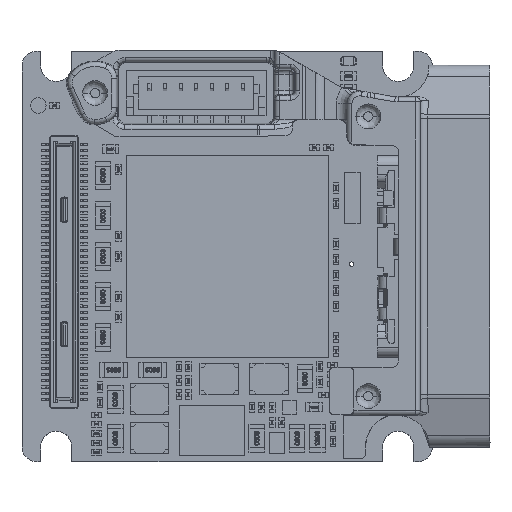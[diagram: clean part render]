
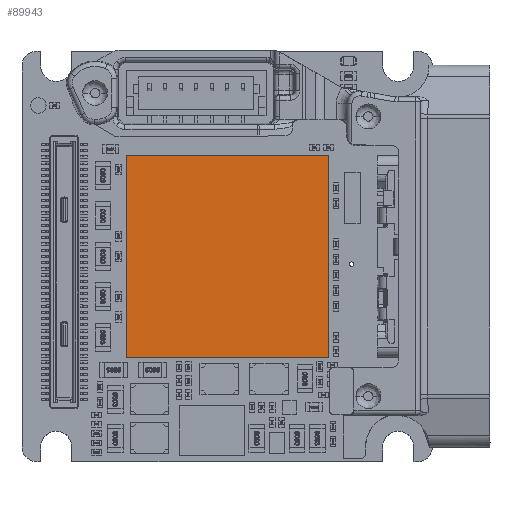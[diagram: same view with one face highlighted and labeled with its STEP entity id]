
A CAD part, top view. The second image highlights one B-rep face of the part: STEP entity #89943.
In plain terms, the highlighted planar face has unit normal (0, 0, 1).
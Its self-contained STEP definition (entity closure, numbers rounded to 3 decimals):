
#11227 = DIRECTION ( 'NONE',  ( 1., 0., 0. ) ) ;
#19968 = CARTESIAN_POINT ( 'NONE',  ( 6.5, -6.5, 6.172 ) ) ;
#31191 = DIRECTION ( 'NONE',  ( -1., 0., 0. ) ) ;
#34735 = ORIENTED_EDGE ( 'NONE', *, *, #396487, .F. ) ;
#55117 = VERTEX_POINT ( 'NONE', #306658 ) ;
#70505 = AXIS2_PLACEMENT_3D ( 'NONE', #130846, #392114, #11227 ) ;
#89943 = ADVANCED_FACE ( 'NONE', ( #482959 ), #96502, .T. ) ;
#90663 = EDGE_CURVE ( 'NONE', #263149, #55117, #373748, .T. ) ;
#96502 = PLANE ( 'NONE',  #70505 ) ;
#106353 = VECTOR ( 'NONE', #31191, 1000. ) ;
#107480 = LINE ( 'NONE', #320617, #269444 ) ;
#115126 = CARTESIAN_POINT ( 'NONE',  ( -6.5, -6.5, 6.172 ) ) ;
#130846 = CARTESIAN_POINT ( 'NONE',  ( -6.5, -6.5, 6.172 ) ) ;
#141851 = DIRECTION ( 'NONE',  ( 0., -1., 0. ) ) ;
#152189 = CARTESIAN_POINT ( 'NONE',  ( 6.5, -6.5, 6.172 ) ) ;
#200042 = EDGE_CURVE ( 'NONE', #396759, #237319, #107480, .T. ) ;
#237319 = VERTEX_POINT ( 'NONE', #152189 ) ;
#253527 = EDGE_CURVE ( 'NONE', #55117, #396759, #294492, .T. ) ;
#263149 = VERTEX_POINT ( 'NONE', #329069 ) ;
#269444 = VECTOR ( 'NONE', #141851, 1000. ) ;
#270885 = VECTOR ( 'NONE', #501558, 1000. ) ;
#294492 = LINE ( 'NONE', #425278, #304451 ) ;
#304451 = VECTOR ( 'NONE', #334343, 1000. ) ;
#306658 = CARTESIAN_POINT ( 'NONE',  ( -6.5, 6.5, 6.172 ) ) ;
#320617 = CARTESIAN_POINT ( 'NONE',  ( 6.5, 6.5, 6.172 ) ) ;
#328024 = EDGE_LOOP ( 'NONE', ( #34735, #387883, #454302, #467841 ) ) ;
#329069 = CARTESIAN_POINT ( 'NONE',  ( -6.5, -6.5, 6.172 ) ) ;
#334343 = DIRECTION ( 'NONE',  ( 1., 0., 0. ) ) ;
#373748 = LINE ( 'NONE', #115126, #270885 ) ;
#375103 = LINE ( 'NONE', #19968, #106353 ) ;
#387883 = ORIENTED_EDGE ( 'NONE', *, *, #200042, .F. ) ;
#392114 = DIRECTION ( 'NONE',  ( 0., 0., 1. ) ) ;
#393297 = CARTESIAN_POINT ( 'NONE',  ( 6.5, 6.5, 6.172 ) ) ;
#396487 = EDGE_CURVE ( 'NONE', #237319, #263149, #375103, .T. ) ;
#396759 = VERTEX_POINT ( 'NONE', #393297 ) ;
#425278 = CARTESIAN_POINT ( 'NONE',  ( -6.5, 6.5, 6.172 ) ) ;
#454302 = ORIENTED_EDGE ( 'NONE', *, *, #253527, .F. ) ;
#467841 = ORIENTED_EDGE ( 'NONE', *, *, #90663, .F. ) ;
#482959 = FACE_OUTER_BOUND ( 'NONE', #328024, .T. ) ;
#501558 = DIRECTION ( 'NONE',  ( 0., 1., 0. ) ) ;
